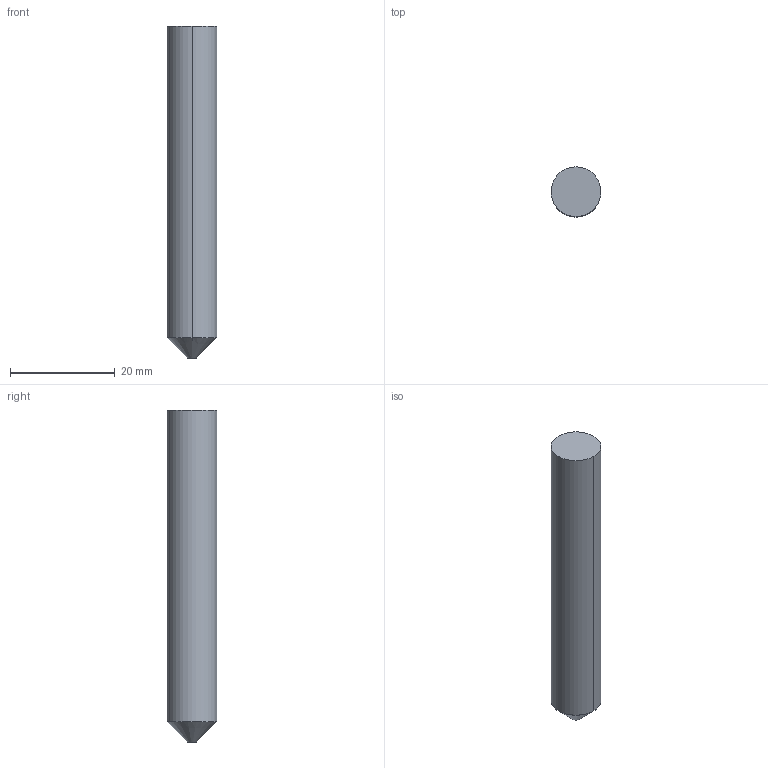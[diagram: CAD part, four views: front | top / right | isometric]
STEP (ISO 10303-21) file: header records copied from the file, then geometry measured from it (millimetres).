
FILE_DESCRIPTION((' '),'2;1');
FILE_NAME( '3HC037503.stp', '2026-01-21T09:08:20', (' '), ('--- Datakit www.datakit.com---'), ' Datakit CrossCadWare V2025.4 Sep 19 2025', 'Mastercam 2027', ' ');
FILE_SCHEMA(('AUTOMOTIVE_DESIGN { 1 0 10303 214 1 1 1 1 }'));
Length unit declared in the file: inch
Products named in the file (1): 3HC037503
Bounding box: 9.53 x 9.53 x 63.5 mm (x, y, z)
Volume: 4361.1 mm3; surface area: 1955.2 mm2
Topology: 1 solids, 1 shells, 8 faces, 14 edges, 8 vertices
Faces by surface type: cylinder 4, plane 2, cone 2
Entity records: 264 total; most frequent: DIRECTION 48, CARTESIAN_POINT 35, ORIENTED_EDGE 28, AXIS2_PLACEMENT_3D 21, EDGE_CURVE 14, VERTEX_POINT 8, CIRCLE 8, EDGE_LOOP 8
